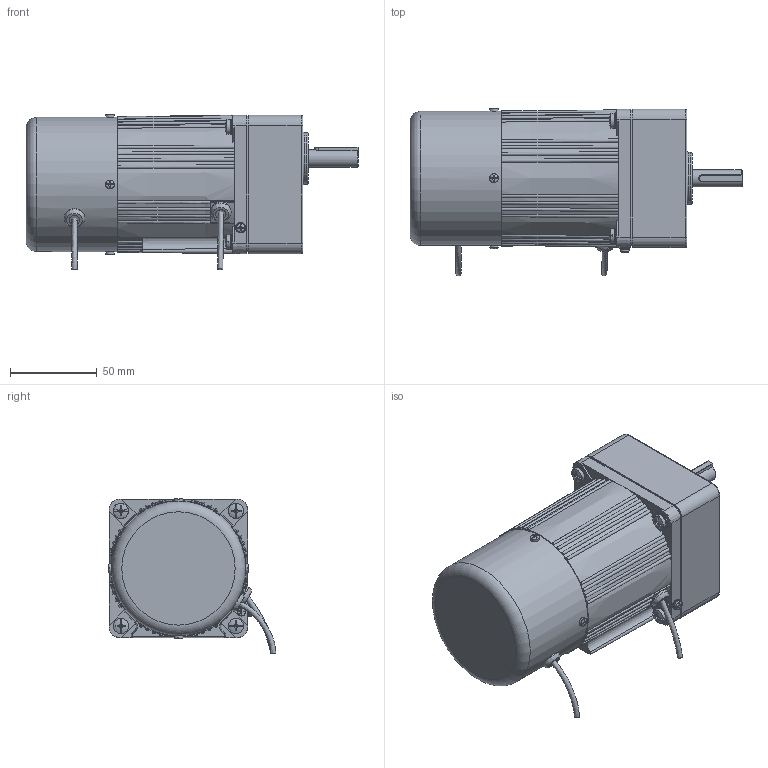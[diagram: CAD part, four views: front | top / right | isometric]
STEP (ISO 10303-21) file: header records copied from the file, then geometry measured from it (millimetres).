
FILE_DESCRIPTION(/* description */ (''),/* implementation_level */ '2;1');
FILE_NAME(/* name */ '4RK25-40CC·M-4GN3-20K-C·10L.stp',/* time_stamp */ '2024-10-15T15:54:56+08:00',/* author */ (''),/* organization */ (''),/* preprocessor_version */ 'ST-DEVELOPER v18.102',/* originating_system */ 'SIEMENS PLM Software NX 2027',/* authorisation */ '');
FILE_SCHEMA (('AP203_CONFIGURATION_CONTROLLED_3D_DESIGN_OF_MECHANICAL_PARTS_AND_ASSEMBLIES_MIM_LF { 1 0 10303 403 2 1 2}'));
Length unit declared in the file: millimetre
Products named in the file (1): A0_objects
Bounding box: 191.8 x 96.94 x 90.03 mm (x, y, z)
Volume: 836093.8 mm3; surface area: 88268.2 mm2
Topology: 12 solids, 12 shells, 914 faces, 2384 edges, 1554 vertices
Faces by surface type: bspline 376, plane 306, cylinder 105, cone 56, revolution 30, sphere 22, torus 19
Full cylindrical faces by diameter (mm): 2.6 x1, 3 x1, 3.2 x1, 4 x1, 4.2 x4, 4.4 x1, 4.6 x4, 5 x5, 5.1 x5, 5.3 x4, 6 x9, 6.5 x4, 8 x2, 8.2 x1, 8.5 x4, 9 x4, 10 x1, 10.5 x1, 19 x1, 26 x1, 30 x1, 56 x1, 67 x1, 75 x2, 77.5 x1
Entity records: 36760 total; most frequent: CARTESIAN_POINT 18120, ORIENTED_EDGE 4412, DIRECTION 2506, EDGE_CURVE 2206, VERTEX_POINT 1494, B_SPLINE_CURVE_WITH_KNOTS 1262, EDGE_LOOP 1116, AXIS2_PLACEMENT_3D 1008
